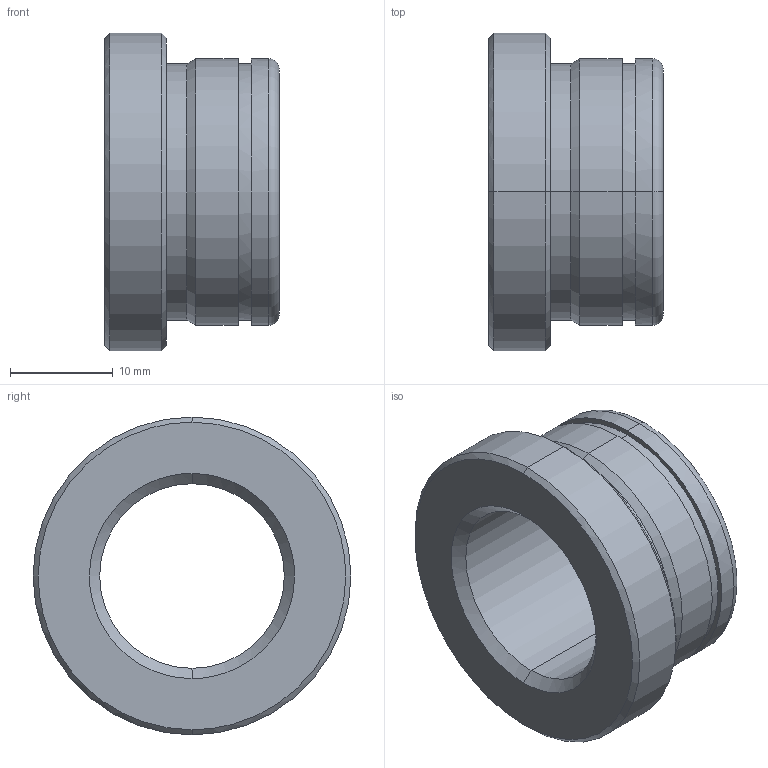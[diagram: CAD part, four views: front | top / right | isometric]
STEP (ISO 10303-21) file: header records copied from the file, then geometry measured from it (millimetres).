
FILE_DESCRIPTION(('CATIA V5 STEP Exchange'),'2;1');
FILE_NAME('C:\Users\Utente\Desktop\IO LAVORO\3D X SITO CF\X SITO\PLASTICA\553\553-18X17.stp','2021-05-23T17:33:20+00:00',('none'),('none'),'CATIA Version 5 Release 20 GA (IN-10)','CATIA V5 STEP AP203','none');
FILE_SCHEMA(('CONFIG_CONTROL_DESIGN'));
Length unit declared in the file: millimetre
Products named in the file (1): 553-18X17
Bounding box: 17 x 31 x 31 mm (x, y, z)
Volume: 5794.2 mm3; surface area: 3403.5 mm2
Topology: 1 solids, 1 shells, 29 faces, 92 edges, 68 vertices
Faces by surface type: cylinder 12, cone 8, plane 5, torus 4
Entity records: 1222 total; most frequent: CARTESIAN_POINT 368, ORIENTED_EDGE 184, DIRECTION 136, EDGE_CURVE 92, AXIS2_PLACEMENT_3D 88, VERTEX_POINT 68, CIRCLE 58, EDGE_LOOP 34
